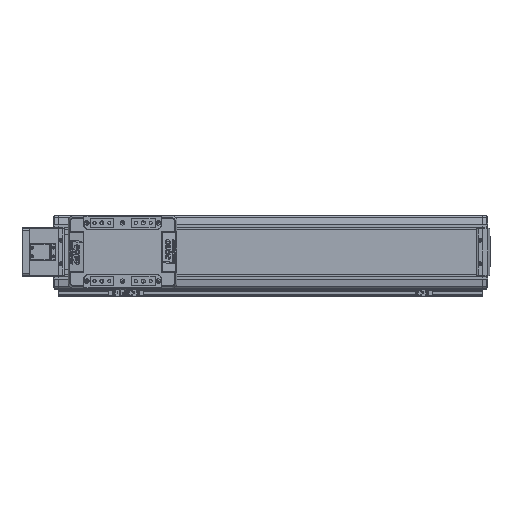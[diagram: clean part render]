
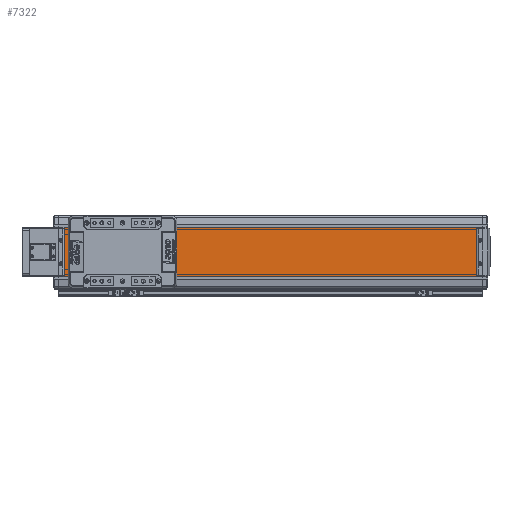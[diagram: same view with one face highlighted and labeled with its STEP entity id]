
A CAD part, top view. The second image highlights one B-rep face of the part: STEP entity #7322.
In plain terms, the highlighted planar face has unit normal (0, 0, 1).
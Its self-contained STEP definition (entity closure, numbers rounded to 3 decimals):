
#7322=ADVANCED_FACE('',(#16293),#16294,.F.);
#16293=FACE_OUTER_BOUND('',#28235,.T.);
#16294=PLANE('',#28236);
#28235=EDGE_LOOP('',(#49324,#49325,#49326,#49327));
#28236=AXIS2_PLACEMENT_3D('',#49328,#49329,#49330);
#49324=ORIENTED_EDGE('',*,*,#66888,.F.);
#49325=ORIENTED_EDGE('',*,*,#73972,.F.);
#49326=ORIENTED_EDGE('',*,*,#68205,.F.);
#49327=ORIENTED_EDGE('',*,*,#73973,.T.);
#49328=CARTESIAN_POINT('',(0.,0.,26.));
#49329=DIRECTION('',(0.,0.,-1.0));
#49330=DIRECTION('',(0.,1.0,0.));
#66888=EDGE_CURVE('',#79530,#79532,#79533,.T.);
#68205=EDGE_CURVE('',#81882,#81884,#81885,.T.);
#73972=EDGE_CURVE('',#81884,#79530,#90991,.T.);
#73973=EDGE_CURVE('',#81882,#79532,#90992,.T.);
#79530=VERTEX_POINT('',#97843);
#79532=VERTEX_POINT('',#97846);
#79533=LINE('',#97847,#97848);
#81882=VERTEX_POINT('',#101032);
#81884=VERTEX_POINT('',#101035);
#81885=LINE('',#101036,#101037);
#90991=LINE('',#114324,#114325);
#90992=LINE('',#114326,#114327);
#97843=CARTESIAN_POINT('',(860.0,50.,26.));
#97846=CARTESIAN_POINT('',(860.0,-50.,26.));
#97847=CARTESIAN_POINT('',(860.0,-50.,26.));
#97848=VECTOR('',#122327,10.0);
#101032=CARTESIAN_POINT('',(0.,-50.,26.));
#101035=CARTESIAN_POINT('',(0.,50.,26.));
#101036=CARTESIAN_POINT('',(0.,-50.,26.));
#101037=VECTOR('',#124388,10.0);
#114324=CARTESIAN_POINT('',(0.,50.,26.));
#114325=VECTOR('',#132576,10.0);
#114326=CARTESIAN_POINT('',(0.,-50.,26.));
#114327=VECTOR('',#132577,10.0);
#122327=DIRECTION('',(0.,-1.0,0.));
#124388=DIRECTION('',(0.,1.0,0.));
#132576=DIRECTION('',(1.0,0.,0.));
#132577=DIRECTION('',(1.0,0.,0.));
